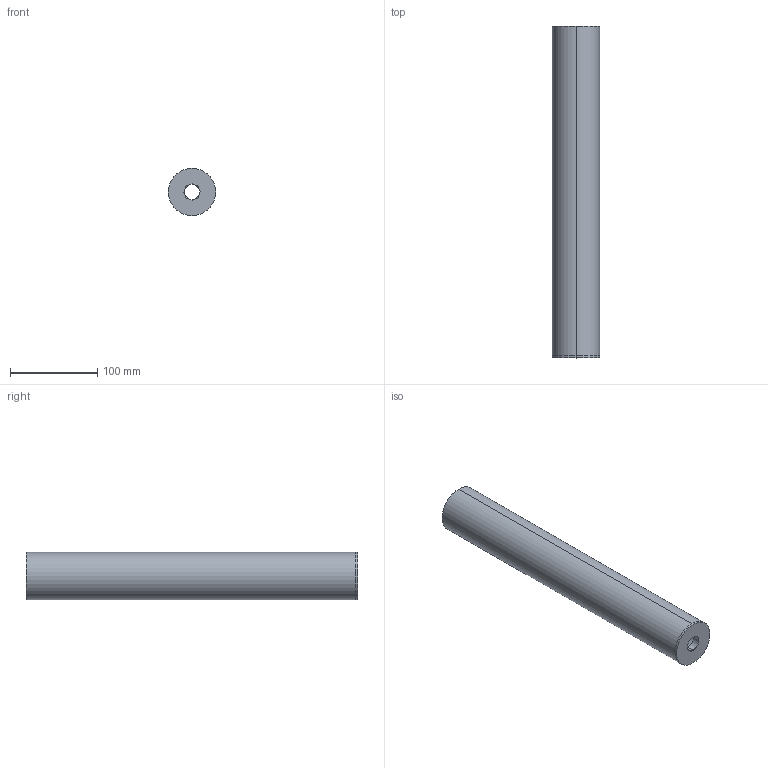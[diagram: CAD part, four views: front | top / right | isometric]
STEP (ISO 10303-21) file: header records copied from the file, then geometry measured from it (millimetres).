
FILE_DESCRIPTION (( 'STEP AP214' ), '1' );
FILE_NAME ('R05_54x380.STEP', '2020-03-20T00:02:51', ( '' ), ( '' ), 'SwSTEP 2.0', 'SolidWorks 2014', '' );
FILE_SCHEMA (( 'AUTOMOTIVE_DESIGN' ));
Length unit declared in the file: millimetre
Products named in the file (1): R05_54x380
Bounding box: 54.02 x 380 x 54.02 mm (x, y, z)
Volume: 333992.3 mm3; surface area: 118351.5 mm2
Topology: 1 solids, 1 shells, 19 faces, 38 edges, 22 vertices
Faces by surface type: cone 8, cylinder 8, plane 3
Entity records: 554 total; most frequent: DIRECTION 100, CARTESIAN_POINT 80, ORIENTED_EDGE 76, AXIS2_PLACEMENT_3D 42, EDGE_CURVE 38, EDGE_LOOP 22, CIRCLE 22, VERTEX_POINT 22
